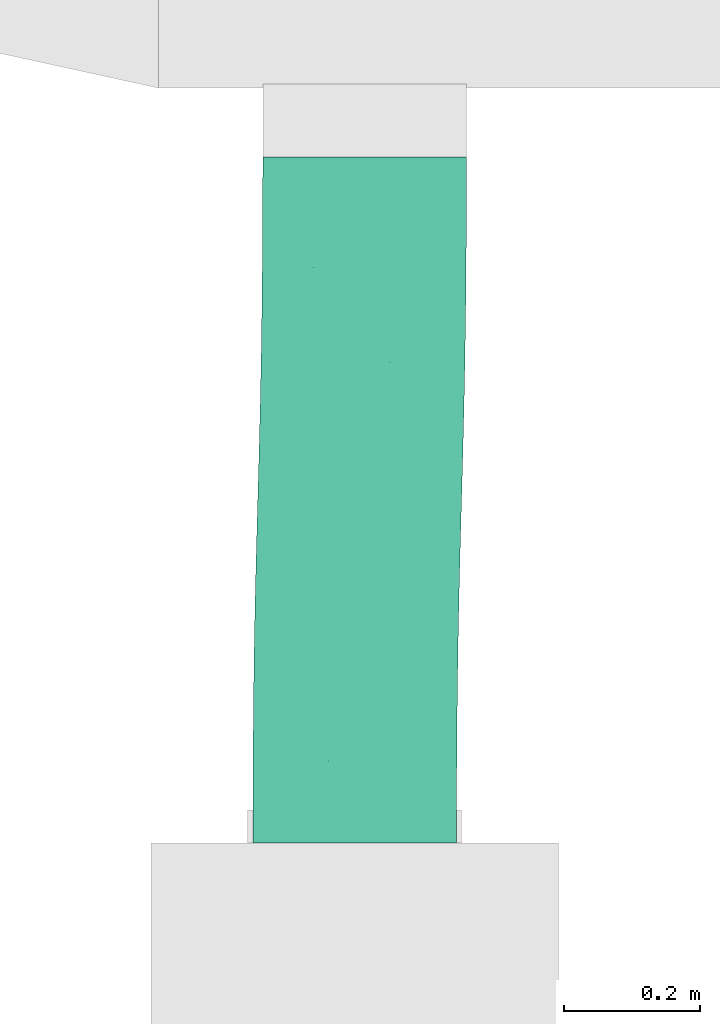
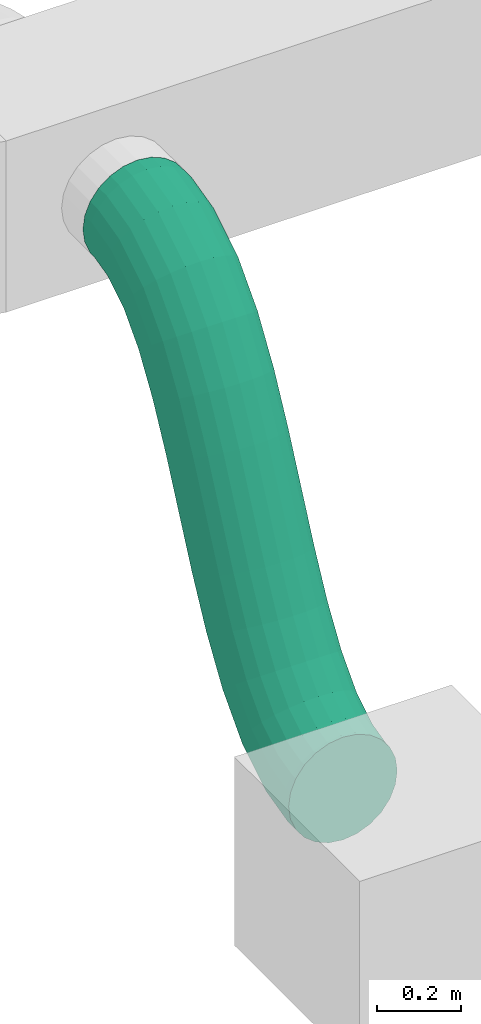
# One storey, part 37 of 60: 1 flow segment.
"""IFC2X3 building model written with IfcOpenShell, lengths in millimetres."""

from ifc_helpers import new_model, entity, si_unit, converted_unit, derived_unit, direction, frame, origin, place, context, subcontext, project, spatial, faceted_brep, type_object, element, save


model = new_model("IFC2X3")

# Units and contexts
model_context = context("Model", 3, precision=0.01, world=origin(), true_north=direction((6.123233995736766e-17, 1.0)))
body_context = subcontext(model_context, "Body", "Model", "MODEL_VIEW")
ifc_project = project(units=[si_unit("LENGTHUNIT", "METRE", prefix="MILLI"), converted_unit("PLANEANGLEUNIT", "DEGREE", entity("IfcPlaneAngleMeasure", 0.017453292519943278), si_unit("PLANEANGLEUNIT", "RADIAN"), dimensions=[0, 0, 0, 0, 0, 0, 0]), si_unit("AREAUNIT", "SQUARE_METRE"), derived_unit("THERMALTRANSMITTANCEUNIT", [(si_unit("MASSUNIT", "GRAM", prefix="KILO"), 1), (si_unit("THERMODYNAMICTEMPERATUREUNIT", "KELVIN"), -1), (si_unit("TIMEUNIT", "SECOND"), -3)])], contexts=[model_context])

# Site, building, storey
site_placement = place(None, origin())
site = spatial("IfcSite", under=ifc_project, at=site_placement, Name="Default", CompositionType="ELEMENT")
building_placement = place(site_placement, origin())
building = spatial("IfcBuilding", under=site, at=building_placement, Name="Praça Pedro II, 1301 - Centro (Sul), Teresina - PI, 64001-100", CompositionType="ELEMENT")
storey_placement = place(building_placement, frame((0.0, 0.0, 6040.0)))
storey = spatial("IfcBuildingStorey", under=building, at=storey_placement, Name="2PAV", CompositionType="ELEMENT", Elevation=6040.0)

# Flow segment
duct_segment_type = type_object("IfcDuctSegmentType", Name="Duto flexível redondo:Flexível - Redondo", PredefinedType="FLEXIBLESEGMENT")
flow_segment_placement = place(storey_placement, frame((18789.7258134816, -65980.92492894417, 2260.904727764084)))
element("IfcFlowSegment", 1, at=flow_segment_placement, inside=storey, type_object=duct_segment_type, Name="Duto flexível redondo:Flexível - Redondo", ObjectType="Duto flexível redondo:Flexível - Redondo", context=body_context, shape_type="Brep", body=[
    faceted_brep([(76.59527223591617, 0.0, 21.691461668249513), (112.77241547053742, 0.0, 6.706398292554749), (151.59527223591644, 0.0, 1.5952722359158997), (190.41812900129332, 0.0, 6.706398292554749), (226.59527223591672, 0.0, 21.691461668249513), (257.66128941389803, 0.0, 45.529255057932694), (281.49908280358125, 0.0, 76.59527223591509), (296.48414617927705, 0.0, 112.77241547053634), (301.595272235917, 0.0, 151.59527223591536), (296.48414617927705, 0.0, 190.41812900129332), (281.4990828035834, 0.0, 226.59527223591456), (257.66128941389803, 0.0, 257.66128941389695), (226.59527223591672, 0.0, 281.49908280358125), (190.41812900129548, 0.0, 296.48414617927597), (151.59527223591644, 0.0, 301.5952722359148), (112.77241547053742, 0.0, 296.48414617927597), (76.59527223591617, 0.0, 281.49908280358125), (45.52925505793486, 0.0, 257.66128941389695), (21.691461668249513, 0.0, 226.59527223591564), (6.706398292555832, 0.0, 190.41812900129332), (1.5952722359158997, 0.0, 151.59527223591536), (6.706398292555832, 0.0, 112.77241547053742), (21.691461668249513, 0.0, 76.59527223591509), (45.52925505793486, 0.0, 45.529255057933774), (6.706398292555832, 32.229427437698, 112.77241547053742), (21.691461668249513, 36.555033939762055, 76.59527223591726), (45.529255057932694, 40.25134006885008, 45.529255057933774), (1.5952722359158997, 27.569303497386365, 151.59527223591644), (76.59527223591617, 43.06644867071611, 21.691461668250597), (112.77241547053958, 44.8085147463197, 6.706398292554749), (151.59527223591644, 45.35881937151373, 1.5952722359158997), (190.41812900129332, 44.67986019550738, 6.706398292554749), (226.59527223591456, 42.81790716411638, 21.691461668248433), (257.6612894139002, 39.89984929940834, 45.529255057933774), (281.4990828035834, 36.124547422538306, 76.59527223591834), (296.48414617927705, 31.749282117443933, 112.77241547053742), (301.595272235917, 27.072220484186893, 151.59527223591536), (296.48414617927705, 22.41209654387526, 190.4181290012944), (281.4990828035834, 18.086490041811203, 226.59527223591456), (257.6612894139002, 14.390183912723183, 257.66128941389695), (190.41812900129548, 9.833009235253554, 296.4841461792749), (151.59527223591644, 9.282704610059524, 301.5952722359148), (226.59527223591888, 11.575075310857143, 281.49908280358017), (76.59527223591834, 11.823616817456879, 281.4990828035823), (45.52925505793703, 14.741674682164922, 257.6612894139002), (112.77241547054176, 9.961663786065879, 296.48414617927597), (6.706398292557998, 22.892241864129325, 190.41812900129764), (21.69146166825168, 18.516976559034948, 226.59527223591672), (91.30406557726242, 1009.416893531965, 1089.1914616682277), (60.2380483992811, 1009.416893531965, 1113.0292550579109), (36.40025500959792, 1009.416893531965, 1144.0952722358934), (21.415191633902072, 1009.416893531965, 1180.2724154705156), (16.30406557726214, 1009.416893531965, 1219.0952722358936), (21.415191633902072, 1009.416893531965, 1257.9181290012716), (36.40025500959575, 1009.416893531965, 1294.0952722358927), (60.2380483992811, 1009.416893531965, 1325.1612894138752), (91.30406557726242, 1009.416893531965, 1348.9990828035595), (127.48120881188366, 1009.416893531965, 1363.9841461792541), (166.3040655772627, 1009.416893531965, 1369.0952722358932), (205.1269223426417, 1009.416893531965, 1363.9841461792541), (241.30406557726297, 1009.416893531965, 1348.9990828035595), (272.37008275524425, 1009.416893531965, 1325.1612894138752), (296.2078761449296, 1009.416893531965, 1294.0952722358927), (311.1929395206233, 1009.416893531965, 1257.9181290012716), (316.30406557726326, 1009.416893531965, 1219.0952722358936), (311.1929395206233, 1009.416893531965, 1180.2724154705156), (296.20787614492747, 1009.416893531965, 1144.0952722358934), (272.37008275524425, 1009.416893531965, 1113.0292550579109), (241.30406557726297, 1009.416893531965, 1089.1914616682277), (205.1269223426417, 1009.416893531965, 1074.2063982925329), (166.3040655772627, 1009.416893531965, 1069.095272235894), (127.48120881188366, 1009.416893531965, 1074.2063982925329), (1.8865072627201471, 114.18140328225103, 172.7318389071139), (7.031868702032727, 129.02298929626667, 136.3936367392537), (22.048709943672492, 142.79920250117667, 102.52279226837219), (45.91365807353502, 154.5712167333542, 73.42754757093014), (77.00035631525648, 163.53678867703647, 51.09069549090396), (113.19029755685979, 169.08492942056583, 37.0344555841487), (152.01719710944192, 170.83754234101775, 32.21673737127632), (190.8350659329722, 168.6751897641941, 36.96586038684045), (226.99853041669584, 162.74523244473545, 50.958179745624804), (258.0431102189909, 153.45178717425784, 73.24014200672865), (281.85316852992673, 141.42818688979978, 102.29326826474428), (296.806089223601, 127.49382008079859, 136.1376359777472), (301.8828554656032, 112.59829081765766, 172.46680741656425), (296.73749402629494, 97.75670480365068, 208.80500958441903), (281.72065278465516, 83.98049159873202, 242.67585405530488), (257.85570465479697, 72.20847736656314, 271.7710987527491), (226.76900641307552, 63.24290542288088, 294.1079508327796), (190.57906517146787, 57.69476467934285, 308.16419073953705), (151.75216561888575, 55.94215175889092, 312.9819089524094), (112.93429679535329, 58.10450433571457, 308.2327859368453), (76.77083231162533, 64.03446165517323, 294.2404665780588), (45.726252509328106, 73.32790692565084, 271.95850431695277), (6.963273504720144, 99.28587401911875, 209.06101034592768), (21.916194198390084, 85.35150721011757, 242.9053780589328), (2.6907765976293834, 212.1086952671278, 231.1021956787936), (7.913729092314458, 236.39771587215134, 200.3952135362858), (23.00259167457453, 258.9431989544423, 171.75136351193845), (46.92908329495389, 278.20870710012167, 147.122676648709), (78.06265308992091, 292.88132776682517, 128.18755725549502), (114.28159972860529, 301.96114610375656, 116.23640242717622), (153.11766185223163, 304.8293874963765, 112.08366361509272), (191.9242260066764, 301.29058603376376, 116.01234310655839), (228.05668897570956, 291.5859051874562, 127.75470788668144), (259.05268311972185, 276.37670291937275, 146.5105352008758), (282.7998826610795, 256.6994612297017, 171.00164641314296), (297.6799551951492, 233.89515162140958, 199.55901276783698), (302.6788483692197, 209.51785010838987, 230.23649694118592), (297.45589587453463, 185.228829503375, 260.9434790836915), (282.3670332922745, 162.68334642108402, 289.5873291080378), (258.4405416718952, 143.41783827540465, 314.2160159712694), (227.3069718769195, 128.74521760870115, 333.15113536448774), (191.08802523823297, 119.66539927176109, 345.1022901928), (152.2519631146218, 116.79715787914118, 349.25502900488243), (113.44539896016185, 120.33595934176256, 345.3263495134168), (77.31293599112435, 130.04064018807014, 333.58398473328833), (46.316941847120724, 145.24984245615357, 314.8281574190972), (7.689669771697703, 187.73139375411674, 261.7796798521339), (22.569742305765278, 164.92708414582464, 290.33704620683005), (3.903954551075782, 297.07198108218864, 319.1493546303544), (9.210704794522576, 327.2296642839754, 294.52404721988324), (24.37734987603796, 355.22254005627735, 271.5253113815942), (48.37030799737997, 379.142940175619, 251.72047295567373), (79.55449871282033, 397.3607289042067, 236.45919895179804), (115.8047709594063, 408.6343940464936, 226.78151997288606), (154.65072858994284, 412.19565395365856, 223.34695384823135), (193.44508378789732, 407.801814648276, 226.38956058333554), (229.54406535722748, 395.75230901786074, 235.70199155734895), (260.48758736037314, 376.8682909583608, 250.64961998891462), (284.16689990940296, 352.43667509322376, 270.2137897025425), (298.96829698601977, 324.1224356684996, 293.0612348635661), (303.883087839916, 293.8551413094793, 317.6349398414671), (298.5763375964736, 263.69745810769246, 342.26024725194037), (283.4096925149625, 235.7045823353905, 365.2589830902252), (259.41673439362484, 211.78418221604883, 385.063821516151), (228.23254367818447, 193.56639348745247, 400.32509552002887), (191.98227143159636, 182.2927283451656, 410.0027744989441), (153.13631380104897, 178.73146843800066, 413.4373406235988), (114.34195860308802, 183.12530774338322, 410.3947338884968), (78.2429770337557, 195.17481337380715, 401.0823029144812), (47.29945503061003, 214.05883143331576, 386.1346744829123), (8.818745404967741, 266.804686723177, 343.7230596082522), (23.620142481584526, 238.49044729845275, 366.5705047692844), (5.422211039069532, 372.2967342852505, 429.33778160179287), (10.787359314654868, 405.3478532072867, 408.9507483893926), (26.008210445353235, 436.02646535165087, 389.88605092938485), (50.04748858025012, 462.2418739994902, 373.44291684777), (81.26695664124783, 482.20754237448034, 360.74191855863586), (117.5390594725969, 494.5628431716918, 352.6486081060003), (156.39191320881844, 498.46578305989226, 349.7145312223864), (195.17776007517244, 493.6503831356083, 352.1396403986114), (231.25340870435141, 480.4448049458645, 359.7586684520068), (262.1603632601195, 459.7489868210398, 372.0523912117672), (285.7923658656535, 432.97331456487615, 388.18301178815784), (300.53893459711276, 401.94250599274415, 407.0512550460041), (305.395115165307, 368.7712594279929, 427.3712813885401), (300.02996688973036, 335.72014050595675, 447.758314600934), (284.80911575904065, 305.04152836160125, 466.82301206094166), (260.7698376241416, 278.82611971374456, 483.26614614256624), (229.55036956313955, 258.8604513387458, 495.9671444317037), (193.27826673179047, 246.50515054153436, 504.0604548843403), (154.42541299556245, 242.60221065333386, 506.9945317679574), (115.6395661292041, 247.4176105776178, 504.5694225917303), (79.56391750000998, 260.62318876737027, 496.9503945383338), (48.656962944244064, 281.319006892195, 484.65667177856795), (10.278391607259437, 339.1254877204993, 449.6578079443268), (25.024960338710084, 308.094679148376, 468.5260512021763), (7.143377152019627, 441.0499235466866, 554.2525032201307), (12.541064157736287, 475.40082489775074, 536.2269889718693), (27.792118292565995, 507.2859172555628, 519.3542936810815), (51.857205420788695, 534.5322842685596, 504.7842636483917), (83.09632962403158, 555.2831310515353, 493.5098223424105), (119.38059621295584, 568.124321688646, 486.2993043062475), (158.2372923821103, 572.1807502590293, 483.6440944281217), (197.018398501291, 567.175977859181, 485.72514087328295), (233.08104627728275, 553.4510714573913, 492.4006237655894), (263.967625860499, 531.9413607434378, 503.21561997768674), (287.57326789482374, 504.11269695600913, 517.4331053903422), (302.2892868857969, 471.86155754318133, 534.0841818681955), (307.112810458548, 437.3858043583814, 552.034106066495), (301.71512345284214, 403.03490300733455, 570.0596203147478), (286.4640693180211, 371.1498106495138, 586.9323156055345), (262.3989821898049, 343.90344363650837, 601.5023456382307), (231.15985798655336, 323.1525968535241, 612.7767869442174), (194.87559139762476, 310.3114062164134, 619.9873049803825), (156.01889522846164, 306.25497764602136, 622.6425148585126), (117.23778910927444, 311.25975004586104, 620.5614684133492), (81.17514133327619, 324.98465644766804, 613.8859855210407), (50.28856175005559, 346.4943671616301, 603.0709893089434), (11.966900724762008, 406.574170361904, 572.2024274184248), (26.682919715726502, 374.3230309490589, 588.8535038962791), (14.373525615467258, 541.2828018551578, 669.2190407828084), (16.18421436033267, 606.3819905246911, 800.6309241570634), (31.435268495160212, 638.2670828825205, 783.7582288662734), (29.634173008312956, 573.5127979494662, 653.0425822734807), (8.965503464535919, 506.5603239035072, 686.4944753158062), (10.78652735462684, 572.0310891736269, 818.6564384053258), (53.707457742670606, 601.053891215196, 639.0674987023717), (55.50035562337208, 665.5134498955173, 769.1881988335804), (84.95282524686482, 622.0292016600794, 628.2461689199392), (86.73947982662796, 686.2642966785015, 757.9137575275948), (123.02374641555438, 699.1054873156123, 750.7032394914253), (121.24095536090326, 635.0092965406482, 621.3160486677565), (161.88044258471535, 703.1619158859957, 748.0480296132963), (160.09887198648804, 639.1096038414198, 618.7494141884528), (200.6615487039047, 698.157143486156, 750.1290760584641), (198.87847232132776, 634.050694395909, 620.7211773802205), (236.72419647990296, 684.4322370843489, 756.8045589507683), (234.93699068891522, 620.1773245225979, 627.0969658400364), (267.61077606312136, 662.9225263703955, 767.619555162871), (265.81709865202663, 598.4349414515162, 637.4422801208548), (289.4143678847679, 570.3052526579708, 651.0521041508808), (291.2164180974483, 635.0938625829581, 781.8370405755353), (305.932437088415, 602.8427231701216, 798.4881170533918), (304.1206834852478, 537.7052499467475, 666.9989509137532), (310.7559606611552, 568.3669699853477, 816.4380412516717), (308.9338343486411, 502.8565696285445, 684.1960691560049), (305.3582736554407, 534.0160686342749, 834.4635554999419), (303.5258121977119, 468.13409167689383, 701.4715036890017), (290.10721952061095, 502.13097627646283, 851.3362507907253), (288.2651648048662, 435.9040955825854, 717.6479621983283), (266.0421323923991, 474.8846092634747, 865.9062808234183), (264.1918800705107, 408.36300231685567, 731.6230457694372), (232.94651256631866, 387.3876918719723, 742.4443755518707), (234.8030081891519, 454.1337624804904, 877.1807221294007), (198.51874160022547, 441.2925718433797, 884.3912401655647), (196.65838245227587, 374.40759699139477, 749.3744958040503), (159.66204543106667, 437.23614327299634, 887.0464500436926), (157.80046582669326, 370.30728969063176, 751.9411302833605), (120.88093931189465, 442.240915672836, 884.9654035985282), (119.02086549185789, 375.366199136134, 749.9693670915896), (84.81829153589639, 455.96582207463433, 878.289920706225), (82.96234712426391, 389.23956900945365, 743.5935786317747), (52.08223916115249, 410.98195208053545, 733.2482643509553), (53.931711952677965, 477.47553278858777, 867.4749244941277), (28.484969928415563, 439.1116408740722, 719.6384403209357), (30.326069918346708, 505.3041965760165, 853.2574390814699), (15.610050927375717, 537.555335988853, 836.6063626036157), (13.778654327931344, 471.71164358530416, 703.691593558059), (17.869370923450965, 673.6967530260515, 922.9322298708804), (33.09022205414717, 704.3753651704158, 903.8675324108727), (12.504222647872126, 640.6456341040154, 943.3192630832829), (57.129500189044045, 730.5907738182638, 887.4243983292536), (88.34896825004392, 750.5564421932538, 874.7234000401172), (124.62107108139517, 762.911742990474, 866.6300895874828), (163.47392481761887, 766.8146828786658, 863.6960127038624), (202.25977168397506, 761.9992829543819, 866.1211218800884), (238.33542031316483, 748.793704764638, 873.7401499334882), (269.2423748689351, 728.0978866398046, 886.0338726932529), (307.62094620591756, 670.2914058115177, 921.0327365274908), (312.4771267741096, 637.1201592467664, 941.3527628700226), (292.8743774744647, 701.322214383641, 902.1644932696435), (307.1119784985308, 604.0690403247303, 961.7397960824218), (291.89112736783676, 573.3904281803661, 980.8044935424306), (267.85184923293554, 547.1750195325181, 997.2476276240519), (236.63238117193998, 527.209351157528, 1009.9486259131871), (200.36027834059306, 514.8540503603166, 1018.0419363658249), (161.50742460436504, 510.95111047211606, 1020.976013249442), (122.72157773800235, 515.7665103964, 1018.5509040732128), (86.64592910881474, 528.9720885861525, 1010.9318760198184), (55.73897455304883, 549.6679067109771, 998.6381532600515), (32.10697194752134, 576.4435789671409, 982.507532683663), (17.360403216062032, 607.4743875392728, 963.6392894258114), (19.323000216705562, 745.7194354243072, 1028.4302972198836), (34.48964529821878, 773.7123111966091, 1005.4315613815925), (14.016249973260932, 715.5617522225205, 1053.0556046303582), (58.48260341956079, 797.6327113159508, 985.6267229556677), (89.66679413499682, 815.8505000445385, 970.365448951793), (125.91706638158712, 827.1241651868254, 960.6877699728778), (164.76302401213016, 830.6854250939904, 957.253203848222), (203.5573792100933, 826.2915857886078, 960.2958105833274), (239.65636077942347, 814.2420801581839, 969.6082415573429), (270.59988278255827, 795.3580620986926, 984.5558699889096), (309.08059240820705, 742.6122068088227, 1026.9674848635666), (313.9953832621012, 712.3449124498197, 1051.5411898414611), (294.27919533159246, 770.9264462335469, 1004.1200397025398), (308.6886330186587, 682.187229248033, 1076.1664972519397), (293.52198793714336, 654.1943534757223, 1099.1652330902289), (269.5290298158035, 630.2739533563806, 1118.9700715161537), (238.34483910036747, 612.0561646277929, 1134.2313455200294), (202.09456685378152, 600.782499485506, 1143.9090244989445), (163.24860922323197, 597.2212395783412, 1147.3435906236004), (124.45425402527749, 601.6150788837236, 1144.3009838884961), (88.35527245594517, 613.6645845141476, 1134.9885529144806), (57.41175045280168, 632.5486025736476, 1120.040924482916), (33.732437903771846, 656.9802184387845, 1100.4767547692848), (18.931040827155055, 685.2944578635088, 1077.6293096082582), (20.443441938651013, 824.1880640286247, 1109.7470653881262), (35.53230452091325, 846.7335471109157, 1081.1032153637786), (15.220489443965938, 799.8990434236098, 1140.4540475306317), (59.45879614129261, 865.999055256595, 1056.474528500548), (90.59236593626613, 880.6716759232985, 1037.5394091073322), (126.81131257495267, 889.75149426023, 1025.588254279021), (165.647374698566, 892.6197356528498, 1021.4355154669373), (204.4539388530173, 889.0809341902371, 1025.3641949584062), (240.58640182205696, 879.3762533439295, 1037.1065597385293), (271.5823959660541, 864.1670510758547, 1055.8623870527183), (310.20966804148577, 821.6854997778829, 1108.9108646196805), (315.20856121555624, 797.3081982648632, 1139.5883487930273), (295.3295955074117, 844.4898093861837, 1080.3534982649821), (309.9856087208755, 773.019177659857, 1170.2953309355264), (294.8967461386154, 750.473694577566, 1198.9391809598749), (270.9702545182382, 731.2081864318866, 1223.5678678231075), (239.83668472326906, 716.5355657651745, 1242.5029872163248), (203.61773808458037, 707.4557474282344, 1254.4541420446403), (164.781675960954, 704.5875060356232, 1258.6068808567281), (125.97511180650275, 708.1263074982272, 1254.678201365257), (89.84264883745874, 717.8309883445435, 1242.9358365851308), (58.84665469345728, 733.0401906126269, 1224.1800092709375), (35.099455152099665, 752.7174323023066, 1199.6888980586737), (20.219382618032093, 775.5217419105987, 1171.1315317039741), (21.1618437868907, 911.660188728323, 1161.88553488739), (36.178685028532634, 925.4364019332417, 1128.014690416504), (16.01648234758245, 896.8186027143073, 1198.2237370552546), (60.04363315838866, 937.2084161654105, 1098.919445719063), (91.13033140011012, 946.1739881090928, 1076.5825936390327), (127.3202726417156, 951.7221288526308, 1062.5263537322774), (166.14717219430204, 953.4747417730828, 1057.708635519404), (204.96504101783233, 951.3123891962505, 1062.4577585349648), (241.1285055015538, 945.3824318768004, 1076.4500778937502), (272.17308530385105, 936.0889866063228, 1098.7320401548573), (310.9360643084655, 910.1310195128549, 1161.6295341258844), (316.0128305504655, 895.2354902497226, 1197.958705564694), (295.9831436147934, 924.0653863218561, 1127.785166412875), (310.86746911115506, 880.393904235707, 1234.2969077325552), (295.85062786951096, 866.6176910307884, 1268.1677522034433), (271.98567973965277, 854.8456767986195, 1297.262996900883), (240.89898149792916, 845.8801048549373, 1319.5998489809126), (204.70904025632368, 840.3319641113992, 1333.6560888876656), (165.8821407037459, 838.5793511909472, 1338.473807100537), (127.06427188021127, 840.7417037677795, 1333.7246840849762), (90.90080739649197, 846.6716610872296, 1319.7323647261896), (59.85622759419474, 855.9651063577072, 1297.4504024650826), (36.04616928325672, 867.988706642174, 1268.397276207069), (21.093248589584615, 881.9230734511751, 1234.552908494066), (21.41519163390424, 987.004796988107, 1180.272415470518), (36.40025500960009, 991.3304034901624, 1144.0952722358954), (16.304065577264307, 982.3446730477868, 1219.0952722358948), (60.2380483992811, 995.0267096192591, 1113.0292550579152), (91.30406557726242, 997.8418182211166, 1089.1914616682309), (127.4812088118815, 999.5838842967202, 1074.2063982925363), (166.30406557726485, 1000.1341889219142, 1069.0952722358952), (205.1269223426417, 999.4552297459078, 1074.206398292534), (241.30406557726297, 997.5932767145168, 1089.1914616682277), (272.37008275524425, 994.6752188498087, 1113.0292550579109), (311.1929395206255, 986.5246516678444, 1180.2724154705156), (316.3040655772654, 981.847590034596, 1219.0952722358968), (296.2078761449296, 990.8999169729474, 1144.0952722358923), (311.1929395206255, 977.1874660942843, 1257.9181290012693), (296.2078761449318, 972.8618595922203, 1294.0952722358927), (272.3700827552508, 969.1655534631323, 1325.1612894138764), (241.3040655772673, 966.3504448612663, 1348.9990828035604), (205.1269223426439, 964.6083787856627, 1363.9841461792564), (166.30406557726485, 964.0580741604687, 1369.0952722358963), (127.48120881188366, 964.737033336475, 1363.9841461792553), (91.30406557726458, 966.598986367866, 1348.9990828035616), (60.2380483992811, 969.517044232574, 1325.1612894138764), (36.40025500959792, 973.2923461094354, 1294.0952722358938), (21.41519163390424, 977.6676114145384, 1257.9181290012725)], [[[0, 1, 2, 3, 4, 5, 6, 7, 8, 9, 10, 11, 12, 13, 14, 15, 16, 17, 18, 19, 20, 21, 22, 23]], [[22, 21, 24, 25]], [[23, 22, 25, 26]], [[20, 27, 24, 21]], [[1, 0, 28, 29]], [[2, 1, 29, 30]], [[23, 26, 28, 0]], [[2, 30, 31, 3]], [[3, 31, 32, 4]], [[4, 32, 33, 5]], [[6, 34, 35, 7]], [[7, 35, 36, 8]], [[5, 33, 34, 6]], [[37, 38, 10, 9]], [[36, 37, 9, 8]], [[10, 38, 39, 11]], [[40, 41, 14, 13]], [[42, 40, 13, 12]], [[11, 39, 42, 12]], [[16, 43, 44, 17]], [[45, 43, 16, 15]], [[14, 41, 45, 15]], [[46, 27, 20, 19]], [[47, 46, 19, 18]], [[44, 47, 18, 17]], [[48, 49, 50, 51, 52, 53, 54, 55, 56, 57, 58, 59, 60, 61, 62, 63, 64, 65, 66, 67, 68, 69, 70, 71]], [[24, 27, 72, 73]], [[25, 24, 73, 74]], [[26, 25, 74, 75]], [[29, 28, 76, 77]], [[30, 29, 77, 78]], [[75, 76, 28, 26]], [[30, 78, 79, 31]], [[31, 79, 80, 32]], [[32, 80, 81, 33]], [[33, 81, 82, 34]], [[34, 82, 83, 35]], [[84, 36, 35, 83]], [[85, 86, 38, 37]], [[84, 85, 37, 36]], [[87, 39, 38, 86]], [[88, 89, 40, 42]], [[88, 42, 39, 87]], [[90, 41, 40, 89]], [[91, 92, 43, 45]], [[90, 91, 45, 41]], [[44, 43, 92, 93]], [[94, 72, 27, 46]], [[95, 94, 46, 47]], [[93, 95, 47, 44]], [[72, 96, 97, 73]], [[73, 97, 98, 74]], [[99, 75, 74, 98]], [[76, 100, 101, 77]], [[77, 101, 102, 78]], [[100, 76, 75, 99]], [[79, 78, 102, 103]], [[80, 79, 103, 104]], [[104, 105, 81, 80]], [[82, 81, 105, 106]], [[83, 82, 106, 107]], [[84, 83, 107, 108]], [[109, 110, 86, 85]], [[108, 109, 85, 84]], [[87, 86, 110, 111]], [[112, 113, 89, 88]], [[111, 112, 88, 87]], [[90, 89, 113, 114]], [[115, 116, 92, 91]], [[114, 115, 91, 90]], [[117, 93, 92, 116]], [[118, 96, 72, 94]], [[119, 118, 94, 95]], [[119, 95, 93, 117]], [[96, 120, 121, 97]], [[97, 121, 122, 98]], [[123, 99, 98, 122]], [[100, 124, 125, 101]], [[101, 125, 126, 102]], [[124, 100, 99, 123]], [[103, 102, 126, 127]], [[104, 103, 127, 128]], [[128, 129, 105, 104]], [[106, 105, 129, 130]], [[107, 106, 130, 131]], [[108, 107, 131, 132]], [[133, 134, 110, 109]], [[132, 133, 109, 108]], [[111, 110, 134, 135]], [[136, 137, 113, 112]], [[135, 136, 112, 111]], [[114, 113, 137, 138]], [[139, 140, 116, 115]], [[138, 139, 115, 114]], [[141, 117, 116, 140]], [[142, 120, 96, 118]], [[143, 142, 118, 119]], [[143, 119, 117, 141]], [[120, 144, 145, 121]], [[121, 145, 146, 122]], [[147, 123, 122, 146]], [[124, 148, 149, 125]], [[125, 149, 150, 126]], [[148, 124, 123, 147]], [[127, 126, 150, 151]], [[128, 127, 151, 152]], [[152, 153, 129, 128]], [[130, 129, 153, 154]], [[131, 130, 154, 155]], [[132, 131, 155, 156]], [[157, 158, 134, 133]], [[156, 157, 133, 132]], [[135, 134, 158, 159]], [[160, 161, 137, 136]], [[159, 160, 136, 135]], [[138, 137, 161, 162]], [[163, 164, 140, 139]], [[162, 163, 139, 138]], [[165, 141, 140, 164]], [[166, 144, 120, 142]], [[167, 166, 142, 143]], [[167, 143, 141, 165]], [[144, 168, 169, 145]], [[145, 169, 170, 146]], [[171, 147, 146, 170]], [[148, 172, 173, 149]], [[149, 173, 174, 150]], [[172, 148, 147, 171]], [[151, 150, 174, 175]], [[152, 151, 175, 176]], [[176, 177, 153, 152]], [[154, 153, 177, 178]], [[155, 154, 178, 179]], [[156, 155, 179, 180]], [[181, 182, 158, 157]], [[180, 181, 157, 156]], [[159, 158, 182, 183]], [[184, 185, 161, 160]], [[183, 184, 160, 159]], [[162, 161, 185, 186]], [[187, 188, 164, 163]], [[186, 187, 163, 162]], [[189, 165, 164, 188]], [[190, 168, 144, 166]], [[191, 190, 166, 167]], [[191, 167, 165, 189]], [[192, 193, 194, 195, 170, 169]], [[196, 197, 193, 192, 169, 168]], [[198, 171, 170, 195, 194, 199]], [[172, 200, 201, 202, 203, 173]], [[173, 203, 202, 204, 205, 174]], [[200, 172, 171, 198, 199, 201]], [[175, 174, 205, 204, 206, 207]], [[176, 175, 207, 206, 208, 209]], [[209, 208, 210, 211, 177, 176]], [[179, 178, 212, 213, 214, 215]], [[180, 179, 215, 214, 216, 217]], [[211, 210, 213, 212, 178, 177]], [[181, 180, 217, 216, 218, 219]], [[182, 181, 219, 218, 220, 221]], [[183, 182, 221, 220, 222, 223]], [[185, 184, 224, 225, 226, 227]], [[186, 185, 227, 226, 228, 229]], [[223, 222, 225, 224, 184, 183]], [[186, 229, 228, 230, 231, 187]], [[187, 231, 230, 232, 233, 188]], [[234, 189, 188, 233, 232, 235]], [[191, 236, 237, 238, 239, 190]], [[190, 239, 238, 197, 196, 168]], [[236, 191, 189, 234, 235, 237]], [[240, 241, 194, 193]], [[242, 240, 193, 197]], [[243, 199, 194, 241]], [[244, 245, 202, 201]], [[244, 201, 199, 243]], [[246, 204, 202, 245]], [[247, 248, 208, 206]], [[246, 247, 206, 204]], [[210, 208, 248, 249]], [[250, 251, 216, 214]], [[252, 250, 214, 213]], [[249, 252, 213, 210]], [[218, 216, 251, 253]], [[220, 218, 253, 254]], [[222, 220, 254, 255]], [[226, 225, 256, 257]], [[228, 226, 257, 258]], [[255, 256, 225, 222]], [[228, 258, 259, 230]], [[230, 259, 260, 232]], [[232, 260, 261, 235]], [[235, 261, 262, 237]], [[237, 262, 263, 238]], [[242, 197, 238, 263]], [[264, 265, 241, 240]], [[266, 264, 240, 242]], [[267, 243, 241, 265]], [[268, 269, 245, 244]], [[268, 244, 243, 267]], [[270, 246, 245, 269]], [[271, 272, 248, 247]], [[270, 271, 247, 246]], [[249, 248, 272, 273]], [[274, 275, 251, 250]], [[276, 274, 250, 252]], [[273, 276, 252, 249]], [[253, 251, 275, 277]], [[254, 253, 277, 278]], [[255, 254, 278, 279]], [[257, 256, 280, 281]], [[258, 257, 281, 282]], [[279, 280, 256, 255]], [[258, 282, 283, 259]], [[259, 283, 284, 260]], [[260, 284, 285, 261]], [[261, 285, 286, 262]], [[262, 286, 287, 263]], [[266, 242, 263, 287]], [[288, 289, 265, 264]], [[290, 288, 264, 266]], [[291, 267, 265, 289]], [[292, 293, 269, 268]], [[292, 268, 267, 291]], [[294, 270, 269, 293]], [[295, 296, 272, 271]], [[294, 295, 271, 270]], [[273, 272, 296, 297]], [[298, 299, 275, 274]], [[300, 298, 274, 276]], [[297, 300, 276, 273]], [[277, 275, 299, 301]], [[278, 277, 301, 302]], [[279, 278, 302, 303]], [[281, 280, 304, 305]], [[282, 281, 305, 306]], [[303, 304, 280, 279]], [[282, 306, 307, 283]], [[283, 307, 308, 284]], [[284, 308, 309, 285]], [[285, 309, 310, 286]], [[286, 310, 311, 287]], [[290, 266, 287, 311]], [[312, 313, 289, 288]], [[314, 312, 288, 290]], [[315, 291, 289, 313]], [[316, 317, 293, 292]], [[316, 292, 291, 315]], [[318, 294, 293, 317]], [[319, 320, 296, 295]], [[318, 319, 295, 294]], [[297, 296, 320, 321]], [[322, 323, 299, 298]], [[324, 322, 298, 300]], [[321, 324, 300, 297]], [[301, 299, 323, 325]], [[302, 301, 325, 326]], [[303, 302, 326, 327]], [[305, 304, 328, 329]], [[306, 305, 329, 330]], [[327, 328, 304, 303]], [[306, 330, 331, 307]], [[307, 331, 332, 308]], [[308, 332, 333, 309]], [[309, 333, 334, 310]], [[310, 334, 335, 311]], [[314, 290, 311, 335]], [[336, 337, 313, 312]], [[338, 336, 312, 314]], [[315, 313, 337, 339]], [[340, 341, 317, 316]], [[339, 340, 316, 315]], [[318, 317, 341, 342]], [[343, 344, 320, 319]], [[342, 343, 319, 318]], [[345, 321, 320, 344]], [[346, 347, 323, 322]], [[348, 346, 322, 324]], [[348, 324, 321, 345]], [[323, 347, 349, 325]], [[325, 349, 350, 326]], [[351, 327, 326, 350]], [[328, 352, 353, 329]], [[329, 353, 354, 330]], [[352, 328, 327, 351]], [[331, 330, 354, 355]], [[332, 331, 355, 356]], [[356, 357, 333, 332]], [[334, 333, 357, 358]], [[335, 334, 358, 359]], [[314, 335, 359, 338]], [[336, 338, 52, 51]], [[337, 336, 51, 50]], [[339, 337, 50, 49]], [[341, 340, 48, 71]], [[342, 341, 71, 70]], [[339, 49, 48, 340]], [[342, 70, 69, 343]], [[343, 69, 68, 344]], [[344, 68, 67, 345]], [[348, 66, 65, 346]], [[346, 65, 64, 347]], [[348, 345, 67, 66]], [[347, 64, 63, 349]], [[349, 63, 62, 350]], [[350, 62, 61, 351]], [[352, 60, 59, 353]], [[353, 59, 58, 354]], [[351, 61, 60, 352]], [[355, 354, 58, 57]], [[356, 355, 57, 56]], [[357, 356, 56, 55]], [[359, 358, 54, 53]], [[338, 359, 53, 52]], [[55, 54, 358, 357]]]),
])

save(model, "model.ifc")
